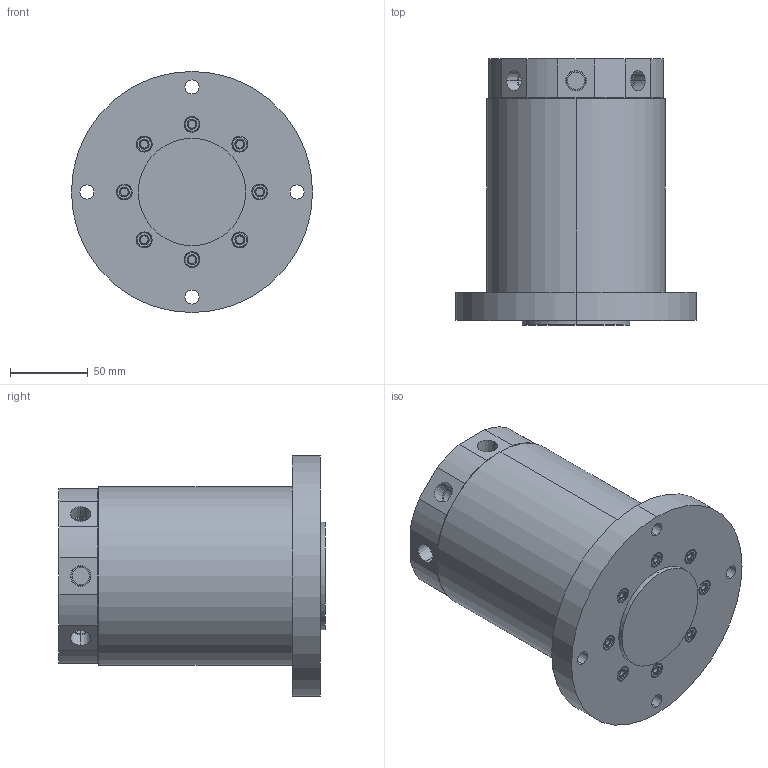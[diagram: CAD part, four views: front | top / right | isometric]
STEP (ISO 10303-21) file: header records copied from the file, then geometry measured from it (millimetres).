
FILE_DESCRIPTION((' '),'2;1');
FILE_NAME( 'PTMC8.x_t.stp', '2025-01-06T11:28:00', (' '), ('--- Datakit www.datakit.com---'), ' Datakit CrossCadWare V2024.1 Dec 21 2023', 'Mastercam 2025', ' ');
FILE_SCHEMA(('AUTOMOTIVE_DESIGN { 1 0 10303 214 1 1 1 1 }'));
Length unit declared in the file: millimetre
Products named in the file (1): PTMC8
Bounding box: 155 x 171 x 155 mm (x, y, z)
Volume: 1872179.7 mm3; surface area: 134815.7 mm2
Topology: 10 solids, 10 shells, 298 faces, 754 edges, 528 vertices
Faces by surface type: cylinder 138, plane 80, torus 64, cone 16
Entity records: 9576 total; most frequent: DIRECTION 1928, CARTESIAN_POINT 1581, ORIENTED_EDGE 1508, AXIS2_PLACEMENT_3D 875, EDGE_CURVE 754, CIRCLE 576, VERTEX_POINT 528, EDGE_LOOP 374
